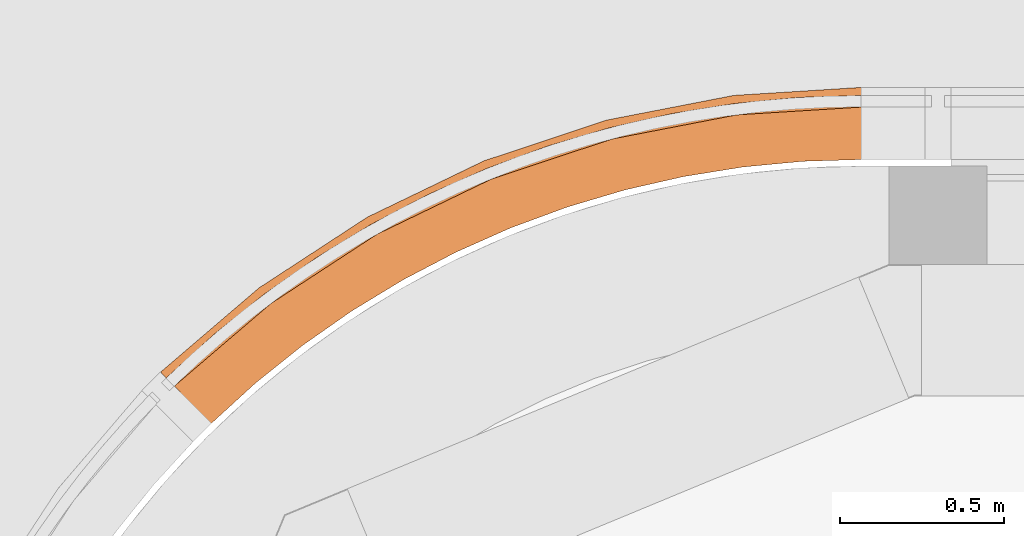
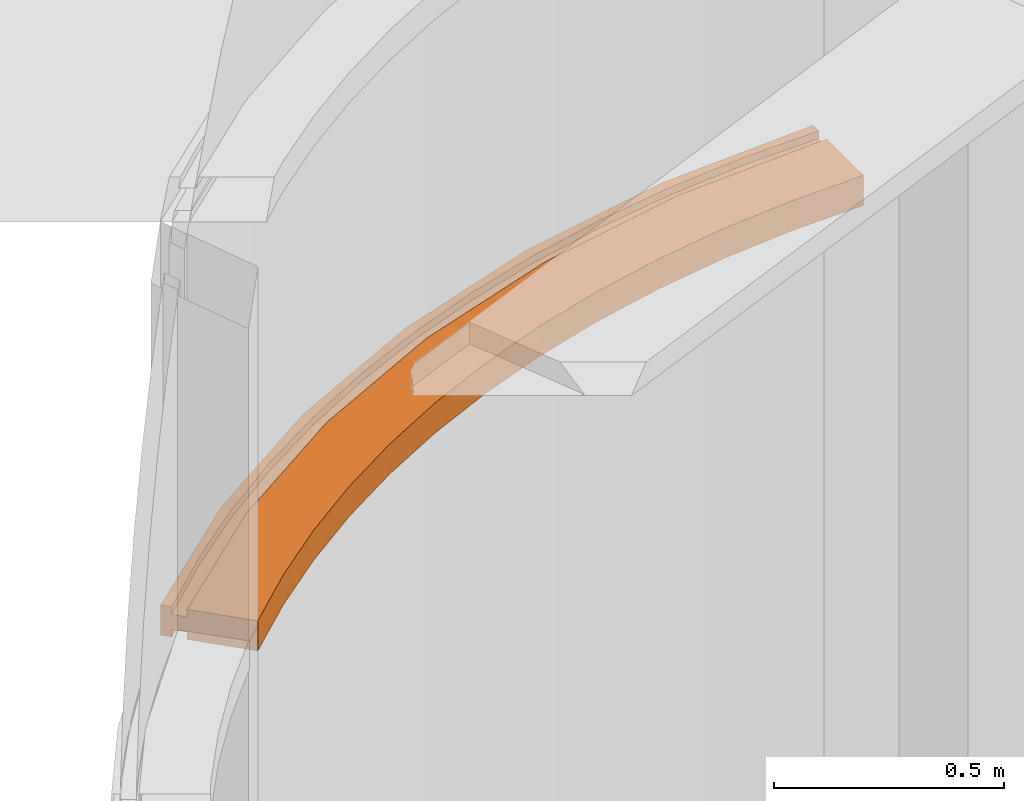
# One storey, part 295 of 302: 1 proxy.
"""IFC2X3 building model written with IfcOpenShell, lengths in metres."""

from ifc_helpers import new_model, entity, si_unit, converted_unit, derived_unit, direction, frame, origin, place, context, subcontext, project, spatial, faceted_brep, source, transform, mapped, material, type_object, type_shapes, element, save


model = new_model("IFC2X3")

# Units and contexts
model_context = context("Model", 3, precision=1e-05, world=origin(), true_north=direction((6.12303176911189e-17, 1.0)))
body_context = subcontext(model_context, "Body", "Model", "MODEL_VIEW")
ifc_project = project(units=[si_unit("LENGTHUNIT", "METRE"), si_unit("AREAUNIT", "SQUARE_METRE"), si_unit("VOLUMEUNIT", "CUBIC_METRE"), converted_unit("PLANEANGLEUNIT", "DEGREE", entity("IfcRatioMeasure", 0.0174532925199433), si_unit("PLANEANGLEUNIT", "RADIAN"), dimensions=[0, 0, 0, 0, 0, 0, 0]), si_unit("MASSUNIT", "GRAM", prefix="KILO"), derived_unit("MASSDENSITYUNIT", [(si_unit("MASSUNIT", "GRAM", prefix="KILO"), 1), (si_unit("LENGTHUNIT", "METRE"), -3)]), derived_unit("MOMENTOFINERTIAUNIT", [(si_unit("LENGTHUNIT", "METRE"), 4)]), si_unit("TIMEUNIT", "SECOND"), si_unit("FREQUENCYUNIT", "HERTZ"), si_unit("THERMODYNAMICTEMPERATUREUNIT", "DEGREE_CELSIUS"), derived_unit("THERMALTRANSMITTANCEUNIT", [(si_unit("MASSUNIT", "GRAM", prefix="KILO"), 1), (si_unit("THERMODYNAMICTEMPERATUREUNIT", "KELVIN"), -1), (si_unit("TIMEUNIT", "SECOND"), -3)]), derived_unit("VOLUMETRICFLOWRATEUNIT", [(si_unit("LENGTHUNIT", "METRE"), 3), (si_unit("TIMEUNIT", "SECOND"), -1)]), si_unit("ELECTRICCURRENTUNIT", "AMPERE"), si_unit("ELECTRICVOLTAGEUNIT", "VOLT"), si_unit("POWERUNIT", "WATT"), si_unit("FORCEUNIT", "NEWTON", prefix="KILO"), si_unit("ILLUMINANCEUNIT", "LUX"), si_unit("LUMINOUSFLUXUNIT", "LUMEN"), si_unit("LUMINOUSINTENSITYUNIT", "CANDELA"), derived_unit("USERDEFINED", [(si_unit("MASSUNIT", "GRAM", prefix="KILO"), -1), (si_unit("LENGTHUNIT", "METRE"), -2), (si_unit("TIMEUNIT", "SECOND"), 3), (si_unit("LUMINOUSFLUXUNIT", "LUMEN"), 1)]), derived_unit("LINEARVELOCITYUNIT", [(si_unit("LENGTHUNIT", "METRE"), 1), (si_unit("TIMEUNIT", "SECOND"), -1)]), si_unit("PRESSUREUNIT", "PASCAL"), derived_unit("USERDEFINED", [(si_unit("LENGTHUNIT", "METRE"), -2), (si_unit("MASSUNIT", "GRAM", prefix="KILO"), 1), (si_unit("TIMEUNIT", "SECOND"), -2)]), derived_unit("LINEARFORCEUNIT", [(si_unit("MASSUNIT", "GRAM", prefix="KILO"), 1), (si_unit("LENGTHUNIT", "METRE"), 1), (si_unit("TIMEUNIT", "SECOND"), -2), (si_unit("LENGTHUNIT", "METRE"), -1)]), derived_unit("PLANARFORCEUNIT", [(si_unit("MASSUNIT", "GRAM", prefix="KILO"), 1), (si_unit("LENGTHUNIT", "METRE"), 1), (si_unit("TIMEUNIT", "SECOND"), -2), (si_unit("LENGTHUNIT", "METRE"), -2)])], contexts=[model_context])

# Site, building, storey
site_placement = place(None, origin())
site = spatial("IfcSite", under=ifc_project, at=site_placement, Name="Default", CompositionType="ELEMENT")
building_placement = place(site_placement, origin())
building = spatial("IfcBuilding", under=site, at=building_placement, CompositionType="ELEMENT")
storey_placement = place(building_placement, frame((0.0, 0.0, -1.3)))
storey = spatial("IfcBuildingStorey", under=building, at=storey_placement, Name="00_EG", CompositionType="ELEMENT", Elevation=-1.3)

# Proxy
ifc_material = material(Name="Prepainted_Steel-ArcelorMittal_Construction_HAIRULTRA-35-CORAL-4309-[RAL_3000]")
building_element_proxy_type = type_object("IfcBuildingElementProxyType", Name="Fassadenrahmen Typ1:Fassadenrahmen Typ1", PredefinedType="NOTDEFINED", material=ifc_material)
shared_shape = source(origin(), body_context, "Body", "Brep", [
    faceted_brep([(0.0434522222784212, 0.116230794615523, 0.0800000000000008), (0.0434522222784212, 0.116230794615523, 0.0600000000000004), (0.0190356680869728, 0.141307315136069, 0.0599999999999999), (0.0190356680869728, 0.141307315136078, 0.0799999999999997), (0.00159527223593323, 0.159219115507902, 0.0799999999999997), (0.00159527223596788, 0.159219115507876, 0.0), (0.0190356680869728, 0.141307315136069, 0.0), (0.0190356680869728, 0.141307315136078, 0.0200000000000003), (0.0434522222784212, 0.116230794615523, 0.0200000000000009), (0.0434522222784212, 0.116230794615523, 0.0), (0.155070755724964, 0.00159527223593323, 0.0), (0.155070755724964, 0.00159527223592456, 0.0800000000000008), (2.14258270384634, 0.80680780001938, 0.0800000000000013), (2.14258270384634, 0.806807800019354, 0.0), (2.1429366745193, 0.966807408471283, 0.0), (2.1429366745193, 0.9668074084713, 0.0200000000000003), (2.143014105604, 1.00180732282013, 0.0200000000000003), (2.143014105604, 1.00180732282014, 0.0), (2.14306941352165, 1.02680726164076, 0.0), (2.14306941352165, 1.02680726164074, 0.0799999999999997), (2.143014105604, 1.00180732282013, 0.0800000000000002), (2.143014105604, 1.00180732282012, 0.0600000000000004), (2.1429366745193, 0.966807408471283, 0.0600000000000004), (2.1429366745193, 0.966807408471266, 0.0800000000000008), (1.37700935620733, 0.869137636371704, 0.0800000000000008), (1.28521399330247, 0.838676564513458, 0.0800000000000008), (1.19341863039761, 0.808215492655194, 0.0800000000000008), (1.10162326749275, 0.777754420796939, 0.0800000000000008), (1.00982790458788, 0.747293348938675, 0.0800000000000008), (0.922715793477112, 0.705272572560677, 0.0800000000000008), (0.835603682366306, 0.66325179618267, 0.0800000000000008), (0.7484915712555, 0.621231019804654, 0.0800000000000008), (0.661379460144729, 0.579210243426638, 0.0800000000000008), (0.580399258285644, 0.526328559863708, 0.0800000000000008), (0.499419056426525, 0.473446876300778, 0.0800000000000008), (0.41843885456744, 0.42056519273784, 0.0800000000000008), (0.337458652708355, 0.367683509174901, 0.0800000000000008), (0.281230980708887, 0.319594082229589, 0.0800000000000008), (0.225003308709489, 0.27150465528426, 0.0800000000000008), (0.134227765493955, 0.193867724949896, 0.0800000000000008), (0.2903926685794, 0.125107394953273, 0.0800000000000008), (0.433396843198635, 0.239637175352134, 0.0800000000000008), (0.583488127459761, 0.344707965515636, 0.0800000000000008), (0.740041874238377, 0.439882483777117, 0.0800000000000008), (0.902406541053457, 0.524764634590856, 0.0800000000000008), (1.06990640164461, 0.599001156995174, 0.0800000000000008), (1.24184435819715, 0.662283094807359, 0.0800000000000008), (1.41750484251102, 0.714347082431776, 0.0800000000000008), (1.59615679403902, 0.754976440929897, 0.0800000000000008), (1.77705670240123, 0.784002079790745, 0.0800000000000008), (1.9594517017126, 0.801303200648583, 0.0800000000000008), (2.04640692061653, 0.960784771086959, 0.0800000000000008), (1.94987716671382, 0.954762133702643, 0.0800000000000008), (1.85334741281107, 0.948739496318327, 0.0800000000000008), (1.75681765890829, 0.942716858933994, 0.0800000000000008), (1.66186558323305, 0.924322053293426, 0.0800000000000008), (1.56691350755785, 0.905927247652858, 0.0800000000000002), (1.47196143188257, 0.887532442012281, 0.0800000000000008), (1.36182354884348, 0.927184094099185, 0.0799999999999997), (0.987298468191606, 0.802902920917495, 0.0799999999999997), (0.631881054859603, 0.631458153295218, 0.0799999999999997), (0.301481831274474, 0.415700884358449, 0.0799999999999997), (0.0913423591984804, 0.207303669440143, 0.0800000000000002), (0.163649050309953, 0.273300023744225, 0.0800000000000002), (0.240060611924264, 0.334496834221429, 0.0800000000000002), (0.316472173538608, 0.395693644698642, 0.0800000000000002), (0.396670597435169, 0.451836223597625, 0.0800000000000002), (0.476869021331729, 0.507978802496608, 0.0800000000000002), (0.560520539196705, 0.5588334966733, 0.0800000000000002), (0.644172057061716, 0.609688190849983, 0.0800000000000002), (0.730928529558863, 0.655043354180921, 0.0800000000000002), (0.817685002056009, 0.700398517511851, 0.0800000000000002), (0.907185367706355, 0.74006539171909, 0.0800000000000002), (0.996685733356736, 0.779732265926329, 0.0800000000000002), (1.08855751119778, 0.813545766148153, 0.0800000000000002), (1.18042928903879, 0.847359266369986, 0.0800000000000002), (1.2742901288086, 0.875178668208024, 0.0800000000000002), (1.36815096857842, 0.902998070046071, 0.0800000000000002), (1.4636102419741, 0.924707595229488, 0.0800000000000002), (1.55906951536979, 0.946417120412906, 0.0800000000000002), (1.655729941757, 0.961926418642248, 0.0800000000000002), (1.75239036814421, 0.977435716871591, 0.0800000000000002), (1.84984966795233, 0.986680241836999, 0.0800000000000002), (1.94730896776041, 0.995924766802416, 0.0800000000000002), (2.04516153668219, 0.99886604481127, 0.0800000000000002), (1.74922801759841, 1.00223490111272, 0.0799999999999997), (0.337458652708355, 0.36768350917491, 0.0600000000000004), (0.263957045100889, 0.304820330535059, 0.0600000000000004), (0.190455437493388, 0.241957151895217, 0.0600000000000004), (0.134227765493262, 0.193867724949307, 0.0600000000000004), (0.33745865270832, 0.367683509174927, 0.0200000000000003), (0.337458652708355, 0.36768350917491, 0.0), (0.281230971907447, 0.319594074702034, 0.0), (0.22500329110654, 0.271504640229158, 0.0), (0.13422775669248, 0.193867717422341, 0.0), (0.116953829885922, 0.179093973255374, 0.0200000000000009), (0.190455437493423, 0.241957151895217, 0.0200000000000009), (0.263957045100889, 0.304820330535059, 0.0200000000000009), (2.02372107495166, 0.959369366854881, 0.0600000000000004), (1.94987716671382, 0.954762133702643, 0.0600000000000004), (1.85334741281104, 0.948739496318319, 0.0600000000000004), (1.75681765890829, 0.942716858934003, 0.0600000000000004), (1.85334741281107, 0.948739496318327, 0.0200000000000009), (1.94987716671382, 0.954762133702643, 0.0200000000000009), (2.02372107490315, 0.959369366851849, 0.0200000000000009), (2.02372107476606, 0.959369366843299, 0.0), (1.90450547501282, 0.951931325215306, 0.0), (1.83066156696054, 0.947324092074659, 0.0), (1.75681765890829, 0.942716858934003, 0.0), (1.75681765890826, 0.94271685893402, 0.0200000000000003), (0.661379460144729, 0.579210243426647, 0.0600000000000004), (1.00982790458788, 0.747293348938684, 0.0600000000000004), (0.922715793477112, 0.705272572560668, 0.0600000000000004), (0.835603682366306, 0.663251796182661, 0.0600000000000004), (0.7484915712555, 0.621231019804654, 0.0600000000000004), (0.922715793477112, 0.705272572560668, 0.0), (0.835603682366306, 0.66325179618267, 0.0), (0.7484915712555, 0.621231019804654, 0.0), (0.661379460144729, 0.579210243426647, 0.0), (0.661379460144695, 0.579210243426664, 0.0200000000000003), (0.7484915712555, 0.621231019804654, 0.0200000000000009), (0.835603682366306, 0.66325179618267, 0.0200000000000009), (0.922715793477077, 0.705272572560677, 0.0200000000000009), (1.00982790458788, 0.747293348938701, 0.0200000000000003), (1.00982790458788, 0.747293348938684, 0.0), (0.58039925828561, 0.526328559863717, 0.0600000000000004), (0.499419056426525, 0.473446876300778, 0.0600000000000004), (0.41843885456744, 0.42056519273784, 0.0600000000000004), (0.41843885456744, 0.42056519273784, 0.0200000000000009), (0.499419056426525, 0.473446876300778, 0.0200000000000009), (0.580399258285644, 0.526328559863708, 0.0200000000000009), (0.580399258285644, 0.526328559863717, 0.0), (0.499419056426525, 0.473446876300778, 0.0), (0.41843885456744, 0.42056519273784, 0.0), (1.66186558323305, 0.924322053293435, 0.0600000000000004), (1.56691350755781, 0.905927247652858, 0.0600000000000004), (1.47196143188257, 0.887532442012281, 0.0600000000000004), (1.37700935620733, 0.869137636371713, 0.0600000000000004), (1.56691350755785, 0.905927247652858, 0.0), (1.47196143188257, 0.88753244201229, 0.0), (1.37700935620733, 0.869137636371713, 0.0), (1.37700935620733, 0.86913763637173, 0.0200000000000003), (1.47196143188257, 0.887532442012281, 0.0200000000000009), (1.56691350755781, 0.905927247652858, 0.0200000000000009), (1.66186558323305, 0.924322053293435, 0.0200000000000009), (1.66186558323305, 0.924322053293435, 0.0), (1.10162326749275, 0.777754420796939, 0.0600000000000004), (1.28521399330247, 0.838676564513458, 0.0600000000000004), (1.19341863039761, 0.808215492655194, 0.0600000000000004), (1.10162326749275, 0.777754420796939, 0.0200000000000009), (1.19341863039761, 0.808215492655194, 0.0200000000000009), (1.28521399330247, 0.838676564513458, 0.0200000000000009), (1.28521399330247, 0.838676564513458, 0.0), (1.19341863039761, 0.808215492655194, 0.0), (1.10162326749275, 0.777754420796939, 0.0), (2.02286365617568, 0.998195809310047, 0.0599999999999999), (1.94730896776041, 0.995924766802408, 0.0600000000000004), (1.84984966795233, 0.986680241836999, 0.0599999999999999), (1.75239036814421, 0.977435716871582, 0.0600000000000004), (1.655729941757, 0.961926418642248, 0.0599999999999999), (1.55906951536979, 0.946417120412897, 0.0600000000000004), (1.4636102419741, 0.924707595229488, 0.0599999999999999), (1.36815096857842, 0.902998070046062, 0.0600000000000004), (1.2742901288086, 0.875178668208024, 0.0599999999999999), (1.18042928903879, 0.847359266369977, 0.0600000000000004), (1.08855751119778, 0.813545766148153, 0.0599999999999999), (0.996685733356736, 0.779732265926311, 0.0600000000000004), (0.907185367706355, 0.74006539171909, 0.0599999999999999), (0.817685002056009, 0.700398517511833, 0.0600000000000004), (0.730928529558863, 0.655043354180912, 0.0599999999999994), (0.644172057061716, 0.609688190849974, 0.0600000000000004), (0.560520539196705, 0.5588334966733, 0.0599999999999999), (0.476869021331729, 0.5079788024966, 0.0600000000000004), (0.396670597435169, 0.451836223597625, 0.0599999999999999), (0.316472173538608, 0.395693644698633, 0.0600000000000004), (0.240060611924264, 0.334496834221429, 0.0599999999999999), (0.163649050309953, 0.273300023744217, 0.0600000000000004), (0.0913423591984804, 0.207303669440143, 0.0599999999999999), (0.730928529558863, 0.655043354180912, 0.0199999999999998), (0.644172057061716, 0.609688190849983, 0.0200000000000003), (0.644172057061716, 0.609688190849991, 0.0), (0.730928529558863, 0.655043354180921, 0.0), (0.817685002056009, 0.700398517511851, 0.0), (0.817685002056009, 0.700398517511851, 0.0200000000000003), (0.560520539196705, 0.5588334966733, 0.0200000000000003), (0.476869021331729, 0.507978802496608, 0.0200000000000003), (0.476869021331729, 0.507978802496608, 0.0), (0.56052053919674, 0.558833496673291, 0.0), (0.0913423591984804, 0.207303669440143, 0.0), (0.163649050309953, 0.273300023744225, 0.0), (0.163649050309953, 0.273300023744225, 0.0200000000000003), (0.0913423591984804, 0.207303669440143, 0.0200000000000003), (0.907185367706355, 0.74006539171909, 0.0), (0.996685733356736, 0.779732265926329, 0.0), (0.996685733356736, 0.779732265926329, 0.0200000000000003), (0.907185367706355, 0.74006539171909, 0.0200000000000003), (0.316472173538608, 0.395693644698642, 0.0200000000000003), (0.240060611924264, 0.334496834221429, 0.0200000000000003), (0.240060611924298, 0.334496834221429, 0.0), (0.316472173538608, 0.39569364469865, 0.0), (0.396670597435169, 0.451836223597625, 0.0), (0.396670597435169, 0.451836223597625, 0.0200000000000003), (1.2742901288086, 0.875178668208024, 0.0), (1.36815096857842, 0.902998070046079, 0.0), (1.36815096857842, 0.902998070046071, 0.0200000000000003), (1.2742901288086, 0.875178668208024, 0.0200000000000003), (1.18042928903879, 0.847359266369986, 0.0200000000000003), (1.18042928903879, 0.847359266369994, 0.0), (1.08855751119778, 0.813545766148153, 0.0), (1.08855751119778, 0.813545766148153, 0.0200000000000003), (1.55906951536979, 0.946417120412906, 0.0200000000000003), (1.4636102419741, 0.924707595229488, 0.0200000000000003), (1.4636102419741, 0.924707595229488, 0.0), (1.55906951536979, 0.946417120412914, 0.0), (1.94730896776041, 0.995924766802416, 0.0200000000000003), (1.84984966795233, 0.986680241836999, 0.0200000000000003), (1.75239036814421, 0.977435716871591, 0.0200000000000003), (1.75239036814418, 0.9774357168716, 0.0), (1.84984966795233, 0.986680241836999, 0.0), (1.94730896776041, 0.995924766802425, 0.0), (2.04516153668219, 0.99886604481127, 0.0200000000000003), (2.02286365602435, 0.998195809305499, 0.0), (1.655729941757, 0.961926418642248, 0.0200000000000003), (1.655729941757, 0.961926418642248, 0.0), (0.987298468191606, 0.802902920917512, 0.0), (0.631881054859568, 0.631458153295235, 0.0), (0.301481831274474, 0.415700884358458, 0.0), (1.36182354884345, 0.927184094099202, 0.0), (1.74922801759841, 1.00223490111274, 0.0), (1.59615679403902, 0.754976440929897, 0.0), (1.41750484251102, 0.714347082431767, 0.0), (1.24184435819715, 0.662283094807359, 0.0), (1.06990640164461, 0.599001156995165, 0.0), (0.902406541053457, 0.524764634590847, 0.0), (0.740041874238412, 0.439882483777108, 0.0), (0.583488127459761, 0.344707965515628, 0.0), (0.433396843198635, 0.239637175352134, 0.0), (0.290392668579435, 0.125107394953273, 0.0), (1.9594517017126, 0.801303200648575, 0.0), (1.77705670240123, 0.784002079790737, 0.0)], [[[0, 1, 2, 3, 4, 5, 6, 7, 8, 9, 10, 11]], [[12, 13, 14, 15, 16, 17, 18, 19, 20, 21, 22, 23]], [[24, 25, 26, 27, 28, 29, 30, 31, 32, 33, 34, 35, 36, 37, 38, 39, 0, 11, 40, 41, 42, 43, 44, 45, 46, 47, 48, 49, 50, 12, 23, 51, 52, 53, 54, 55, 56, 57]], [[58, 59, 60, 61, 4, 3, 62, 63, 64, 65, 66, 67, 68, 69, 70, 71, 72, 73, 74, 75, 76, 77, 78, 79, 80, 81, 82, 83, 84, 20, 19, 85]], [[37, 36, 86, 87, 88, 89, 1, 0, 39, 38]], [[90, 91, 92, 93, 94, 9, 8, 95, 96, 97]], [[22, 98, 99, 100, 101, 54, 53, 52, 51, 23]], [[102, 103, 104, 15, 14, 105, 106, 107, 108, 109]], [[110, 32, 31, 30, 29, 28, 111, 112, 113, 114]], [[115, 116, 117, 118, 119, 120, 121, 122, 123, 124]], [[86, 36, 35, 34, 33, 32, 110, 125, 126, 127]], [[128, 129, 130, 119, 118, 131, 132, 133, 91, 90]], [[56, 55, 54, 101, 134, 135, 136, 137, 24, 57]], [[138, 139, 140, 141, 142, 143, 144, 109, 108, 145]], [[146, 111, 28, 27, 26, 25, 24, 137, 147, 148]], [[149, 150, 151, 141, 140, 152, 153, 154, 124, 123]], [[137, 136, 135, 134, 101, 100, 99, 98, 22, 21, 155, 156, 157, 158, 159, 160, 161, 162, 163, 164, 165, 166, 167, 168, 169, 170, 171, 172, 173, 174, 175, 176, 177, 2, 1, 89, 88, 87, 86, 127, 126, 125, 110, 114, 113, 112, 111, 146, 148, 147]], [[170, 169, 168, 71, 70, 69]], [[178, 179, 180, 181, 182, 183]], [[172, 171, 170, 69, 68, 67]], [[184, 185, 186, 187, 180, 179]], [[3, 2, 177, 176, 63, 62]], [[6, 188, 189, 190, 191, 7]], [[168, 167, 166, 73, 72, 71]], [[192, 193, 194, 195, 183, 182]], [[175, 174, 65, 64, 63, 176]], [[196, 197, 190, 189, 198, 199]], [[174, 173, 172, 67, 66, 65]], [[200, 186, 185, 201, 196, 199]], [[163, 162, 77, 76, 75, 164]], [[202, 203, 204, 205, 206, 207]], [[74, 73, 166, 165, 164, 75]], [[208, 207, 206, 209, 194, 193]], [[161, 160, 79, 78, 77, 162]], [[210, 211, 204, 203, 212, 213]], [[157, 156, 83, 82, 81, 158]], [[214, 215, 216, 217, 218, 219]], [[84, 83, 156, 155, 21, 20]], [[17, 16, 220, 214, 219, 221]], [[160, 159, 158, 81, 80, 79]], [[216, 222, 210, 213, 223, 217]], [[60, 59, 224, 225]], [[5, 4, 61, 226]], [[225, 226, 61, 60]], [[227, 58, 85, 228]], [[228, 85, 19, 18]], [[224, 59, 58, 227]], [[227, 228, 18, 17, 221, 219, 218, 217, 223, 213, 212, 203, 202, 207, 208, 193, 192, 182, 181, 180, 187, 186, 200, 199, 198, 189, 188, 6, 5, 226, 225, 224]], [[229, 230, 231, 232, 233, 234, 235, 236, 237, 10, 9, 94, 93, 92, 91, 133, 132, 131, 118, 117, 116, 115, 124, 154, 153, 152, 140, 139, 138, 145, 108, 107, 106, 105, 14, 13, 238, 239]], [[141, 151, 150, 149, 123, 122, 121, 120, 119, 130, 129, 128, 90, 97, 96, 95, 8, 7, 191, 190, 197, 196, 201, 185, 184, 179, 178, 183, 195, 194, 209, 206, 205, 204, 211, 210, 222, 216, 215, 214, 220, 16, 15, 104, 103, 102, 109, 144, 143, 142]], [[237, 40, 11, 10]], [[44, 43, 234, 233]], [[42, 235, 234, 43]], [[45, 44, 233, 232]], [[41, 40, 237, 236]], [[41, 236, 235, 42]], [[47, 46, 231, 230]], [[47, 230, 229, 48]], [[50, 49, 239, 238]], [[229, 239, 49, 48]], [[12, 50, 238, 13]], [[232, 231, 46, 45]]]),
])
type_shapes(building_element_proxy_type, [shared_shape])
proxy_placement = place(storey_placement, frame((-265.976411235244, 44.7712742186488, 4.02999999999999)))
element("IfcBuildingElementProxy", 1, at=proxy_placement, inside=storey, type_object=building_element_proxy_type, material=ifc_material, Name="Fassadenrahmen Typ1:Fassadenrahmen Typ1", ObjectType="Fassadenrahmen Typ1:Fassadenrahmen Typ1", context=body_context, shape_type="MappedRepresentation", body=[
    mapped(shared_shape, transform((0.0, 0.0, 0.0), scale=1.0)),
])

save(model, "model.ifc")
